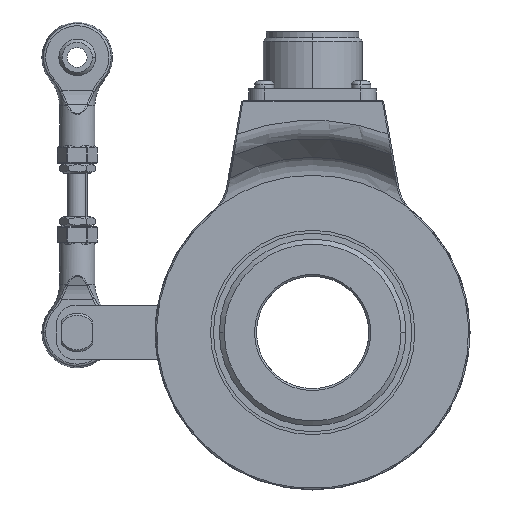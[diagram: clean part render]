
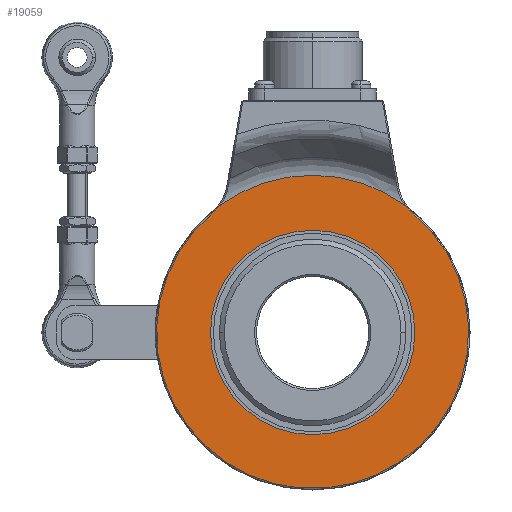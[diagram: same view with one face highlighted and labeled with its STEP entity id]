
A CAD part, left-side view. The second image highlights one B-rep face of the part: STEP entity #19059.
In plain terms, the highlighted planar face has unit normal (-1, 0, 0).
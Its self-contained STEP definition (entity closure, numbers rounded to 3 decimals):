
#525 = ORIENTED_EDGE ( 'NONE', *, *, #6495, .F. ) ;
#1272 = CARTESIAN_POINT ( 'NONE',  ( -26., 0., 0. ) ) ;
#1643 = ORIENTED_EDGE ( 'NONE', *, *, #21916, .F. ) ;
#1904 = CARTESIAN_POINT ( 'NONE',  ( -26., 0., 0. ) ) ;
#4243 = DIRECTION ( 'NONE',  ( 1., 0., 0. ) ) ;
#5084 = CIRCLE ( 'NONE', #8871, 10.3 ) ;
#5740 = DIRECTION ( 'NONE',  ( 0., 0., -1. ) ) ;
#5883 = DIRECTION ( 'NONE',  ( -1., 0., 0. ) ) ;
#6495 = EDGE_CURVE ( 'NONE', #23250, #28698, #12726, .T. ) ;
#6542 = DIRECTION ( 'NONE',  ( -1., 0., 0. ) ) ;
#7464 = DIRECTION ( 'NONE',  ( -1., 0., 0. ) ) ;
#8262 = VERTEX_POINT ( 'NONE', #19185 ) ;
#8311 = VERTEX_POINT ( 'NONE', #19326 ) ;
#8871 = AXIS2_PLACEMENT_3D ( 'NONE', #29142, #4243, #17947 ) ;
#9888 = CARTESIAN_POINT ( 'NONE',  ( -26., 31.746, 38.629 ) ) ;
#10744 = DIRECTION ( 'NONE',  ( 0., 0., -1. ) ) ;
#10827 = AXIS2_PLACEMENT_3D ( 'NONE', #14861, #13096, #10744 ) ;
#10876 = EDGE_CURVE ( 'NONE', #23865, #24136, #27286, .T. ) ;
#11644 = AXIS2_PLACEMENT_3D ( 'NONE', #9888, #25675, #13726 ) ;
#12339 = CARTESIAN_POINT ( 'NONE',  ( -26., 0., -26. ) ) ;
#12474 = DIRECTION ( 'NONE',  ( 0., 0., -1. ) ) ;
#12726 = CIRCLE ( 'NONE', #28268, 26. ) ;
#13096 = DIRECTION ( 'NONE',  ( -1., 0., 0. ) ) ;
#13537 = ORIENTED_EDGE ( 'NONE', *, *, #10876, .T. ) ;
#13726 = DIRECTION ( 'NONE',  ( 0., 0., -1. ) ) ;
#13983 = CIRCLE ( 'NONE', #11644, 10.3 ) ;
#14861 = CARTESIAN_POINT ( 'NONE',  ( -26., 0., 0. ) ) ;
#15036 = PLANE ( 'NONE',  #21592 ) ;
#15182 = DIRECTION ( 'NONE',  ( 0., 0., -1. ) ) ;
#16333 = ORIENTED_EDGE ( 'NONE', *, *, #26758, .T. ) ;
#16417 = CARTESIAN_POINT ( 'NONE',  ( -26., 0., 26. ) ) ;
#16508 = EDGE_LOOP ( 'NONE', ( #16333, #24768, #13537, #28407 ) ) ;
#17253 = FACE_OUTER_BOUND ( 'NONE', #16508, .T. ) ;
#17276 = EDGE_CURVE ( 'NONE', #24136, #8262, #13983, .T. ) ;
#17947 = DIRECTION ( 'NONE',  ( 0., 0., -1. ) ) ;
#18026 = AXIS2_PLACEMENT_3D ( 'NONE', #1904, #5883, #5740 ) ;
#18429 = EDGE_LOOP ( 'NONE', ( #525, #1643 ) ) ;
#18516 = EDGE_CURVE ( 'NONE', #8311, #23865, #5084, .T. ) ;
#19059 = ADVANCED_FACE ( 'NONE', ( #26851, #17253 ), #15036, .T. ) ;
#19185 = CARTESIAN_POINT ( 'NONE',  ( -26., 25.207, 30.671 ) ) ;
#19326 = CARTESIAN_POINT ( 'NONE',  ( -26., -25.207, 30.671 ) ) ;
#19746 = CIRCLE ( 'NONE', #10827, 26. ) ;
#20095 = DIRECTION ( 'NONE',  ( 0., 0., -1. ) ) ;
#21592 = AXIS2_PLACEMENT_3D ( 'NONE', #24331, #21976, #15182 ) ;
#21665 = CARTESIAN_POINT ( 'NONE',  ( -26., -23.654, 32.257 ) ) ;
#21730 = CARTESIAN_POINT ( 'NONE',  ( -26., 0., 0. ) ) ;
#21916 = EDGE_CURVE ( 'NONE', #28698, #23250, #19746, .T. ) ;
#21976 = DIRECTION ( 'NONE',  ( -1., 0., 0. ) ) ;
#22084 = AXIS2_PLACEMENT_3D ( 'NONE', #21730, #6542, #20095 ) ;
#23250 = VERTEX_POINT ( 'NONE', #12339 ) ;
#23865 = VERTEX_POINT ( 'NONE', #21665 ) ;
#24136 = VERTEX_POINT ( 'NONE', #26206 ) ;
#24331 = CARTESIAN_POINT ( 'NONE',  ( -26., 0., 0. ) ) ;
#24768 = ORIENTED_EDGE ( 'NONE', *, *, #18516, .T. ) ;
#25100 = CIRCLE ( 'NONE', #18026, 39.7 ) ;
#25675 = DIRECTION ( 'NONE',  ( 1., 0., 0. ) ) ;
#26206 = CARTESIAN_POINT ( 'NONE',  ( -26., 23.654, 32.257 ) ) ;
#26758 = EDGE_CURVE ( 'NONE', #8262, #8311, #25100, .T. ) ;
#26851 = FACE_BOUND ( 'NONE', #18429, .T. ) ;
#27286 = CIRCLE ( 'NONE', #22084, 40. ) ;
#28268 = AXIS2_PLACEMENT_3D ( 'NONE', #1272, #7464, #12474 ) ;
#28407 = ORIENTED_EDGE ( 'NONE', *, *, #17276, .T. ) ;
#28698 = VERTEX_POINT ( 'NONE', #16417 ) ;
#29142 = CARTESIAN_POINT ( 'NONE',  ( -26., -31.746, 38.629 ) ) ;
